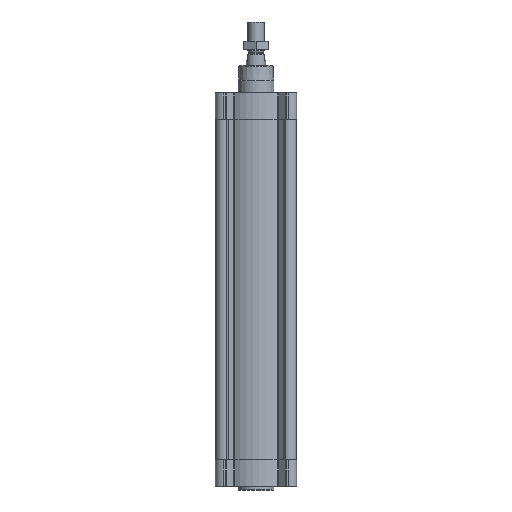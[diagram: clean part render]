
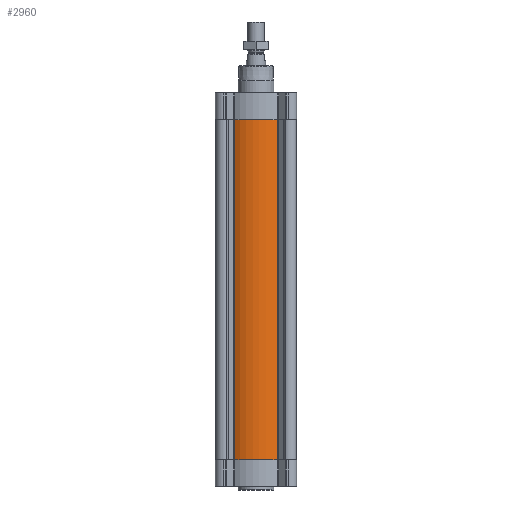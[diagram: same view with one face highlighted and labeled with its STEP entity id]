
A CAD part, front view. The second image highlights one B-rep face of the part: STEP entity #2960.
In plain terms, the highlighted cylindrical face has radius 66 mm (diameter 132 mm), a partial arc.
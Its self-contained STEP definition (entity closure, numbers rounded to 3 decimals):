
#750 = LINE ( 'NONE', #2139, #13114 ) ;
#774 = DIRECTION ( 'NONE',  ( 1., 0., 0. ) ) ;
#1300 = EDGE_CURVE ( 'NONE', #7629, #6715, #5131, .T. ) ;
#2139 = CARTESIAN_POINT ( 'NONE',  ( -36.184, -55.197, -615.3 ) ) ;
#2408 = LINE ( 'NONE', #12791, #17620 ) ;
#2960 = ADVANCED_FACE ( 'NONE', ( #11796 ), #13582, .T. ) ;
#3733 = DIRECTION ( 'NONE',  ( 0., 0., 1. ) ) ;
#4114 = EDGE_CURVE ( 'NONE', #6715, #16856, #2408, .T. ) ;
#4815 = AXIS2_PLACEMENT_3D ( 'NONE', #13326, #10366, #19422 ) ;
#5131 = CIRCLE ( 'NONE', #4815, 66. ) ;
#5473 = AXIS2_PLACEMENT_3D ( 'NONE', #14386, #3733, #774 ) ;
#5972 = DIRECTION ( 'NONE',  ( 0., 0., 1. ) ) ;
#6715 = VERTEX_POINT ( 'NONE', #8623 ) ;
#6743 = DIRECTION ( 'NONE',  ( 0., 0., 1. ) ) ;
#7629 = VERTEX_POINT ( 'NONE', #13196 ) ;
#7946 = AXIS2_PLACEMENT_3D ( 'NONE', #8938, #5972, #9144 ) ;
#8623 = CARTESIAN_POINT ( 'NONE',  ( 36.184, -55.197, -615.3 ) ) ;
#8938 = CARTESIAN_POINT ( 'NONE',  ( 0., 0., -615.3 ) ) ;
#8951 = CIRCLE ( 'NONE', #5473, 66. ) ;
#9121 = ORIENTED_EDGE ( 'NONE', *, *, #4114, .T. ) ;
#9144 = DIRECTION ( 'NONE',  ( 1., 0., 0. ) ) ;
#10366 = DIRECTION ( 'NONE',  ( 0., 0., 1. ) ) ;
#11664 = EDGE_CURVE ( 'NONE', #19265, #16856, #8951, .T. ) ;
#11733 = ORIENTED_EDGE ( 'NONE', *, *, #1300, .T. ) ;
#11796 = FACE_OUTER_BOUND ( 'NONE', #12356, .T. ) ;
#12356 = EDGE_LOOP ( 'NONE', ( #12454, #13845, #11733, #9121 ) ) ;
#12454 = ORIENTED_EDGE ( 'NONE', *, *, #11664, .F. ) ;
#12791 = CARTESIAN_POINT ( 'NONE',  ( 36.184, -55.197, -615.3 ) ) ;
#13114 = VECTOR ( 'NONE', #13248, 1000. ) ;
#13196 = CARTESIAN_POINT ( 'NONE',  ( -36.184, -55.197, -615.3 ) ) ;
#13248 = DIRECTION ( 'NONE',  ( 0., 0., 1. ) ) ;
#13326 = CARTESIAN_POINT ( 'NONE',  ( 0., 0., -615.3 ) ) ;
#13582 = CYLINDRICAL_SURFACE ( 'NONE', #7946, 66. ) ;
#13845 = ORIENTED_EDGE ( 'NONE', *, *, #14338, .F. ) ;
#14338 = EDGE_CURVE ( 'NONE', #7629, #19265, #750, .T. ) ;
#14386 = CARTESIAN_POINT ( 'NONE',  ( 0., 0., -44.7 ) ) ;
#15905 = CARTESIAN_POINT ( 'NONE',  ( 36.184, -55.197, -44.7 ) ) ;
#16695 = CARTESIAN_POINT ( 'NONE',  ( -36.184, -55.197, -44.7 ) ) ;
#16856 = VERTEX_POINT ( 'NONE', #15905 ) ;
#17620 = VECTOR ( 'NONE', #6743, 1000. ) ;
#19265 = VERTEX_POINT ( 'NONE', #16695 ) ;
#19422 = DIRECTION ( 'NONE',  ( 1., 0., 0. ) ) ;
